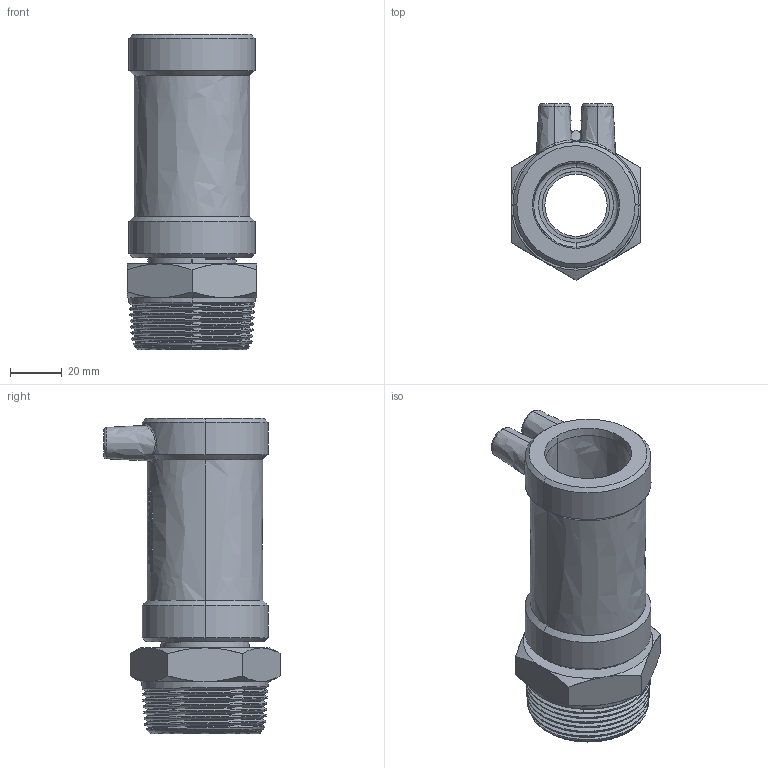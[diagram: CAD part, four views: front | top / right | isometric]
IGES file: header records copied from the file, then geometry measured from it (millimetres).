
Start section:  PTC IGES file: mun_d32_1_1-2_01.igs
Global section: file name: mun_d32_1_1-2_01.igs; native system: Pro/ENGINEER by Parametric Technology Corporation; preprocessor: 2011490; author: mtunjic; organization: Unknown; date: 20130823.152721; units: millimetre
Bounding box: 50 x 67.77 x 121.3 mm (x, y, z)
Surface area: 38144.7 mm2 (no closed solid volume)
Topology: 0 solids, 0 shells, 246 faces, 1248 edges, 1248 vertices
Faces by surface type: bspline 246
